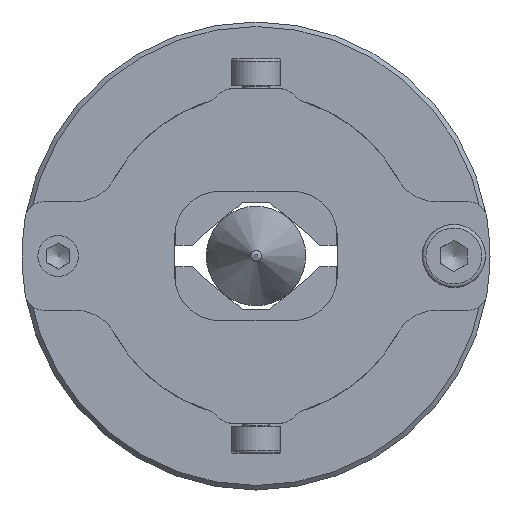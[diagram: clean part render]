
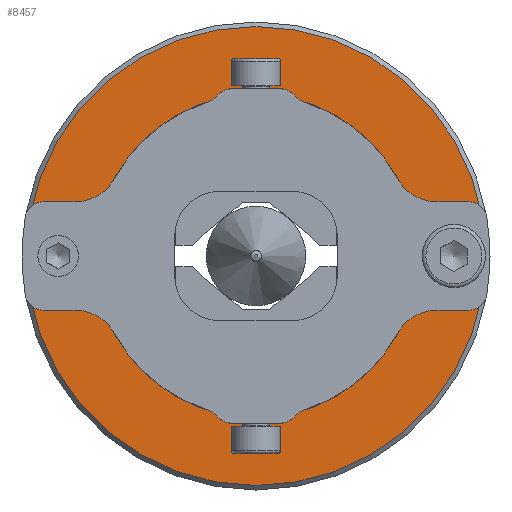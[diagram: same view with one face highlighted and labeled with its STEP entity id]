
A CAD part, front view. The second image highlights one B-rep face of the part: STEP entity #8457.
In plain terms, the highlighted planar face has unit normal (0, -1, 0).
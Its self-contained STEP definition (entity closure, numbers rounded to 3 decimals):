
#322=FACE_BOUND('',#1076,.T.);
#323=FACE_BOUND('',#1077,.T.);
#324=FACE_BOUND('',#1078,.T.);
#343=PLANE('',#9185);
#619=FACE_OUTER_BOUND('',#1075,.T.);
#1075=EDGE_LOOP('',(#5860));
#1076=EDGE_LOOP('',(#5861));
#1077=EDGE_LOOP('',(#5862));
#1078=EDGE_LOOP('',(#5863));
#3310=CIRCLE('',#9177,17.9);
#3313=CIRCLE('',#9181,25.4);
#3316=CIRCLE('',#9186,1.75);
#3317=CIRCLE('',#9187,1.75);
#3676=VERTEX_POINT('',#12555);
#3679=VERTEX_POINT('',#12563);
#3682=VERTEX_POINT('',#12573);
#3683=VERTEX_POINT('',#12575);
#4546=EDGE_CURVE('',#3676,#3676,#3310,.T.);
#4550=EDGE_CURVE('',#3679,#3679,#3313,.T.);
#4554=EDGE_CURVE('',#3682,#3682,#3316,.T.);
#4555=EDGE_CURVE('',#3683,#3683,#3317,.T.);
#5860=ORIENTED_EDGE('',*,*,#4550,.F.);
#5861=ORIENTED_EDGE('',*,*,#4546,.F.);
#5862=ORIENTED_EDGE('',*,*,#4554,.T.);
#5863=ORIENTED_EDGE('',*,*,#4555,.T.);
#8457=ADVANCED_FACE('',(#619,#322,#323,#324),#343,.F.);
#9177=AXIS2_PLACEMENT_3D('',#12557,#10018,#10019);
#9181=AXIS2_PLACEMENT_3D('',#12565,#10027,#10028);
#9185=AXIS2_PLACEMENT_3D('',#12572,#10036,#10037);
#9186=AXIS2_PLACEMENT_3D('',#12574,#10038,#10039);
#9187=AXIS2_PLACEMENT_3D('',#12576,#10040,#10041);
#10018=DIRECTION('center_axis',(0.,-1.,0.));
#10019=DIRECTION('ref_axis',(1.,0.,0.));
#10027=DIRECTION('center_axis',(0.,1.,0.));
#10028=DIRECTION('ref_axis',(1.,0.,0.));
#10036=DIRECTION('center_axis',(0.,1.,0.));
#10037=DIRECTION('ref_axis',(0.,0.,1.));
#10038=DIRECTION('center_axis',(0.,1.,0.));
#10039=DIRECTION('ref_axis',(1.,0.,0.));
#10040=DIRECTION('center_axis',(0.,1.,0.));
#10041=DIRECTION('ref_axis',(1.,0.,0.));
#12555=CARTESIAN_POINT('',(-17.9,0.,0.));
#12557=CARTESIAN_POINT('Origin',(0.,0.,0.));
#12563=CARTESIAN_POINT('',(-25.4,0.,0.));
#12565=CARTESIAN_POINT('Origin',(0.,0.,0.));
#12572=CARTESIAN_POINT('Origin',(0.,0.,0.));
#12573=CARTESIAN_POINT('',(20.15,0.,0.));
#12574=CARTESIAN_POINT('Origin',(21.9,0.,0.));
#12575=CARTESIAN_POINT('',(-23.65,0.,0.));
#12576=CARTESIAN_POINT('Origin',(-21.9,0.,0.));
